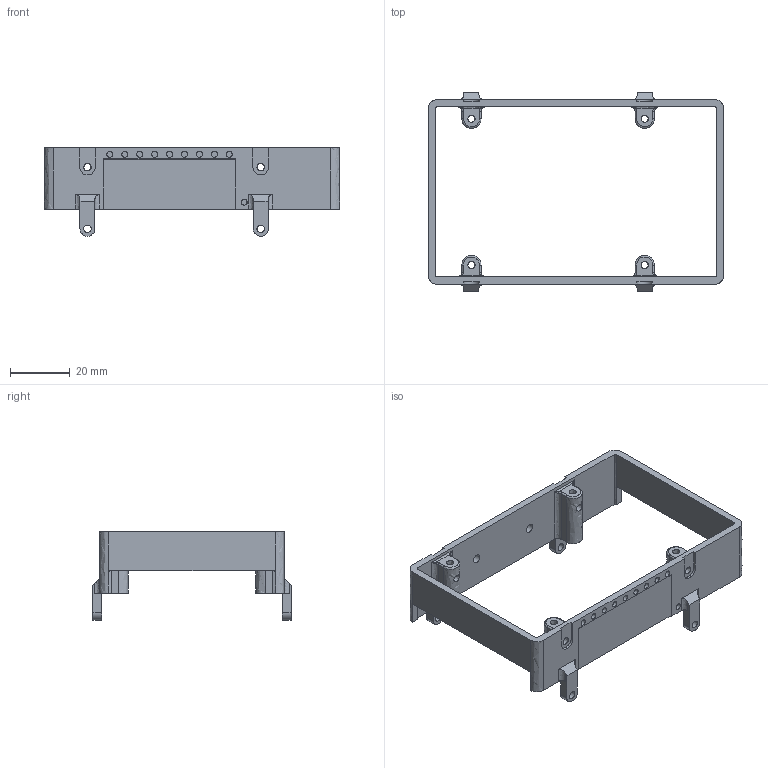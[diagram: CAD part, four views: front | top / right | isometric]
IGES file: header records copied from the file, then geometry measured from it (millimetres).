
Global section: file name: Top ring; native system: unknown; preprocessor: unknown; author: unknown; organization: unknown; date: 20210726.150409; units: millimetre
Bounding box: 98.8 x 66.4 x 29.6 mm (x, y, z)
Volume: 16109.2 mm3; surface area: 15227.7 mm2
Topology: 1 solids, 1 shells, 165 faces, 467 edges, 294 vertices
Faces by surface type: bspline 165
